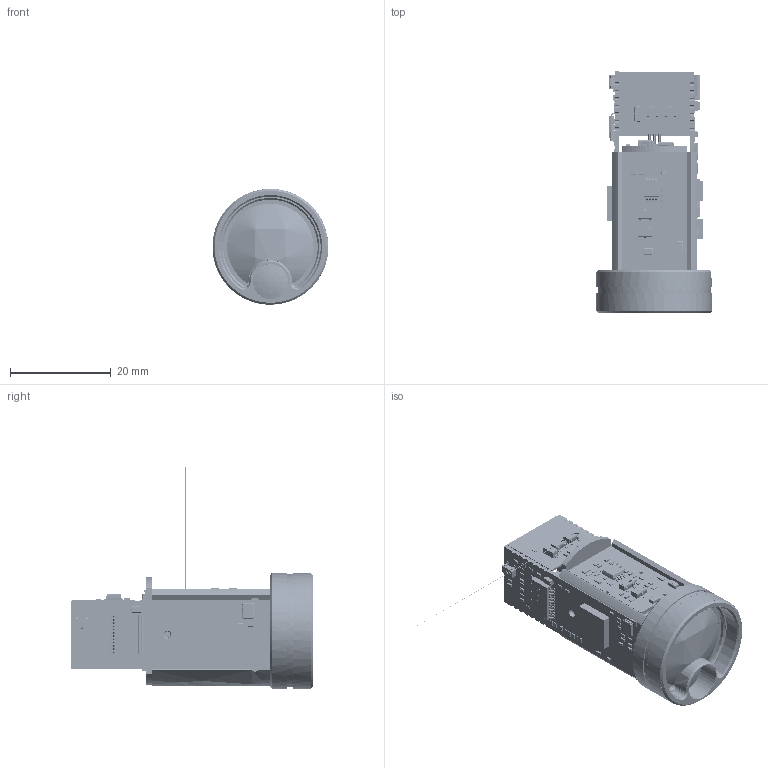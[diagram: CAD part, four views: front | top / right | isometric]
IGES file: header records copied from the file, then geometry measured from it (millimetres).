
Bounding box: 54.14 x 48 x 44.77 mm (x, y, z)
Surface area: 11019 mm2 (no closed solid volume)
Topology: 0 solids, 0 shells, 17614 faces, 90078 edges, 89229 vertices
Faces by surface type: bspline 17614
